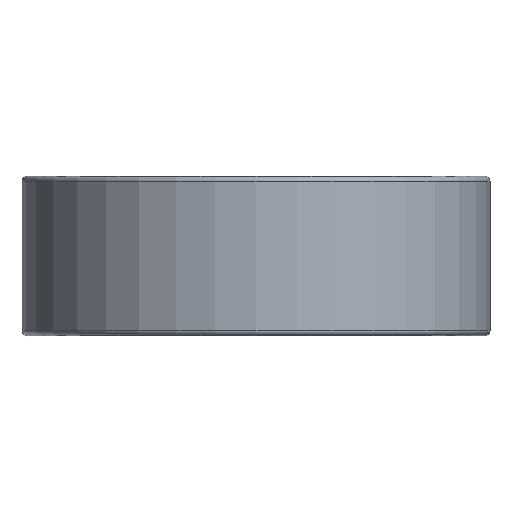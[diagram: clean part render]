
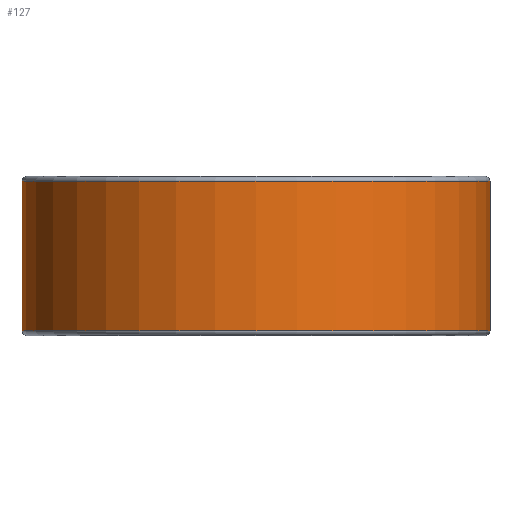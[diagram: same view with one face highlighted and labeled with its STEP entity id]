
A CAD part, front view. The second image highlights one B-rep face of the part: STEP entity #127.
In plain terms, the highlighted cylindrical face has radius 23.5 mm (diameter 47 mm), a partial arc.
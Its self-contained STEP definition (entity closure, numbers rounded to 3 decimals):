
#3 = LINE ( 'NONE', #9, #5 ) ;
#4 = DIRECTION ( 'NONE',  ( 0., 0., -1. ) ) ;
#5 = VECTOR ( 'NONE', #4, 1000. ) ;
#9 = CARTESIAN_POINT ( 'NONE',  ( -23.5, 0., 16. ) ) ;
#39 = CARTESIAN_POINT ( 'NONE',  ( 23.5, 0., 0.5 ) ) ;
#43 = DIRECTION ( 'NONE',  ( 0., 0., -1. ) ) ;
#44 = LINE ( 'NONE', #47, #46 ) ;
#46 = VECTOR ( 'NONE', #43, 1000. ) ;
#47 = CARTESIAN_POINT ( 'NONE',  ( 23.5, 0., 16. ) ) ;
#75 = VERTEX_POINT ( 'NONE', #39 ) ;
#82 = VERTEX_POINT ( 'NONE', #777 ) ;
#88 = EDGE_CURVE ( 'NONE', #262, #120, #3, .T. ) ;
#89 = EDGE_CURVE ( 'NONE', #82, #75, #44, .T. ) ;
#120 = VERTEX_POINT ( 'NONE', #394 ) ;
#122 = ORIENTED_EDGE ( 'NONE', *, *, #88, .T. ) ;
#123 = ORIENTED_EDGE ( 'NONE', *, *, #128, .T. ) ;
#124 = EDGE_CURVE ( 'NONE', #120, #75, #386, .T. ) ;
#127 = ADVANCED_FACE ( 'NONE', ( #385 ), #437, .T. ) ;
#128 = EDGE_CURVE ( 'NONE', #82, #262, #384, .T. ) ;
#180 = ORIENTED_EDGE ( 'NONE', *, *, #124, .T. ) ;
#181 = ORIENTED_EDGE ( 'NONE', *, *, #89, .F. ) ;
#185 = EDGE_LOOP ( 'NONE', ( #181, #123, #122, #180 ) ) ;
#262 = VERTEX_POINT ( 'NONE', #608 ) ;
#351 = AXIS2_PLACEMENT_3D ( 'NONE', #380, #376, #375 ) ;
#375 = DIRECTION ( 'NONE',  ( 1., 0., 0. ) ) ;
#376 = DIRECTION ( 'NONE',  ( 0., 0., 1. ) ) ;
#380 = CARTESIAN_POINT ( 'NONE',  ( 0., 0., 0.5 ) ) ;
#384 = CIRCLE ( 'NONE', #431, 23.5 ) ;
#385 = FACE_OUTER_BOUND ( 'NONE', #185, .T. ) ;
#386 = CIRCLE ( 'NONE', #351, 23.5 ) ;
#394 = CARTESIAN_POINT ( 'NONE',  ( -23.5, 0., 0.5 ) ) ;
#428 = DIRECTION ( 'NONE',  ( 1., 0., 0. ) ) ;
#429 = DIRECTION ( 'NONE',  ( 0., 0., -1. ) ) ;
#430 = CARTESIAN_POINT ( 'NONE',  ( 0., 0., 15.5 ) ) ;
#431 = AXIS2_PLACEMENT_3D ( 'NONE', #430, #429, #428 ) ;
#433 = DIRECTION ( 'NONE',  ( -1., 0., 0. ) ) ;
#434 = DIRECTION ( 'NONE',  ( 0., 0., -1. ) ) ;
#435 = CARTESIAN_POINT ( 'NONE',  ( 0., 0., 16. ) ) ;
#436 = AXIS2_PLACEMENT_3D ( 'NONE', #435, #434, #433 ) ;
#437 = CYLINDRICAL_SURFACE ( 'NONE', #436, 23.5 ) ;
#608 = CARTESIAN_POINT ( 'NONE',  ( -23.5, 0., 15.5 ) ) ;
#777 = CARTESIAN_POINT ( 'NONE',  ( 23.5, 0., 15.5 ) ) ;
